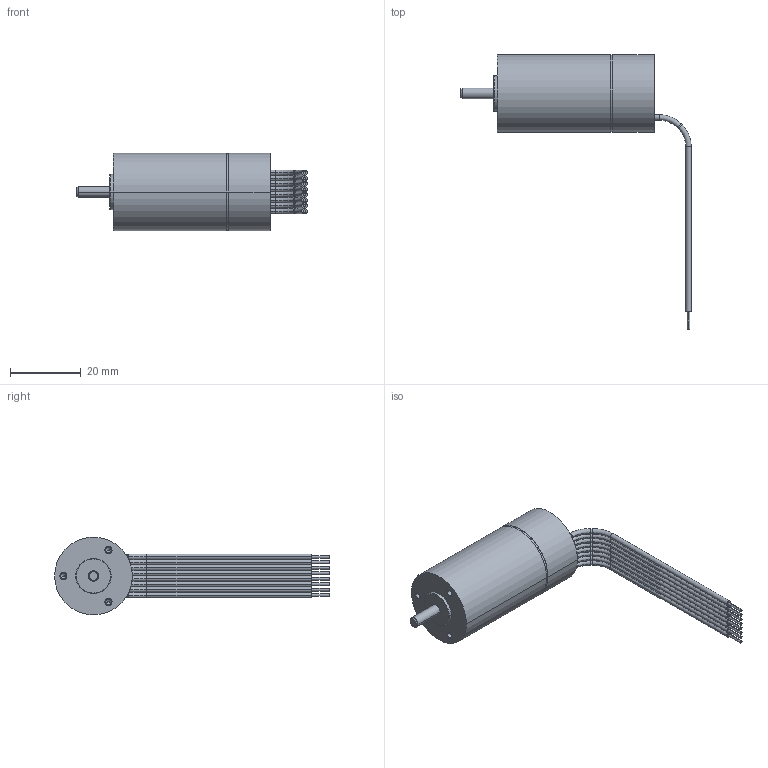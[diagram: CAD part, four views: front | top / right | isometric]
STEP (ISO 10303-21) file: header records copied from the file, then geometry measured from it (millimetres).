
FILE_DESCRIPTION((''),'2;1');
FILE_NAME('1117976_ASM','2010-03-24T',('MMAGPETK'),(''),'PRO/ENGINEER BY PARAMETRIC TECHNOLOGY CORPORATION, 2009230','PRO/ENGINEER BY PARAMETRIC TECHNOLOGY CORPORATION, 2009230','');
FILE_SCHEMA(('CONFIG_CONTROL_DESIGN'));
Length unit declared in the file: millimetre
Products named in the file (1): 1117976_ASM
Bounding box: 65.28 x 77.8 x 22 mm (x, y, z)
Volume: 17948.9 mm3; surface area: 6901.4 mm2
Topology: 1 solids, 4 shells, 165 faces, 361 edges, 211 vertices
Faces by surface type: cylinder 90, torus 38, plane 29, cone 8
Entity records: 4604 total; most frequent: DIRECTION 926, CARTESIAN_POINT 792, ORIENTED_EDGE 698, AXIS2_PLACEMENT_3D 411, EDGE_CURVE 355, CIRCLE 245, VERTEX_POINT 211, EDGE_LOOP 184
